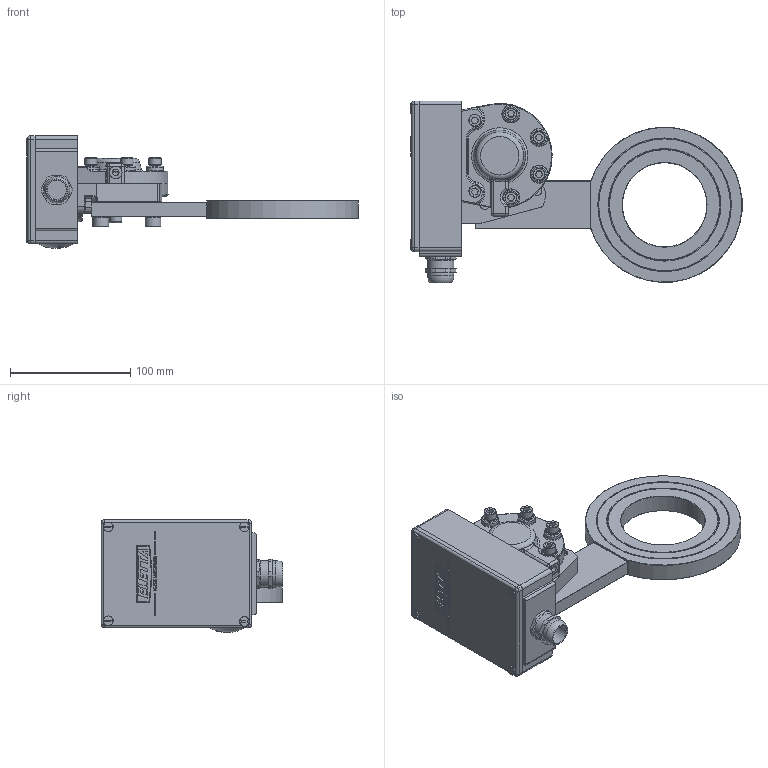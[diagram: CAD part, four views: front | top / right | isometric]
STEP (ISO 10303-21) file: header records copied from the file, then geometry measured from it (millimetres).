
FILE_DESCRIPTION(/* description */ ('Alibre Inc.'),/* implementation_level */ '2;1');
FILE_NAME(/* name */ 'export0',/* time_stamp */ '2012-10-19T13:16:15+02:00',/* author */ (''),/* organization */ (''),/* preprocessor_version */ 'ST-DEVELOPER v14',/* originating_system */ 'Alibre',/* authorisation */ '');
FILE_SCHEMA (('CONFIG_CONTROL_DESIGN'));
Length unit declared in the file: centimetre
Products named in the file (12): ID_1; ID_2; ID_3; ID_4; ID_5; ID_6; ID_7; ID_8; ID_9
Bounding box: 275.67 x 151 x 93.66 mm (x, y, z)
Volume: 448956 mm3; surface area: 180849.2 mm2
Topology: 21 solids, 21 shells, 1085 faces, 2568 edges, 1593 vertices
Faces by surface type: plane 538, cylinder 231, bspline 162, cone 76, torus 70, sphere 8
Full cylindrical faces by diameter (mm): 3.9 x2, 5 x22, 5.5 x1, 5.541 x2, 6 x14, 6.038 x2, 6.5 x6, 8 x9, 8.5 x2, 9.6 x6, 10 x11, 10.5 x1, 12 x3, 13 x2, 14 x3, 16 x1, 17.966 x1, 19.5 x1, 22 x2, 22.5 x4, 29 x1, 31 x1, 70 x1, 92 x2, 93 x2, 110 x2, 111 x2
Entity records: 34338 total; most frequent: CARTESIAN_POINT 14030, ORIENTED_EDGE 3988, DIRECTION 3168, EDGE_CURVE 1994, VERTEX_POINT 1333, AXIS2_PLACEMENT_3D 1279, EDGE_LOOP 1159, FACE_BOUND 1159
